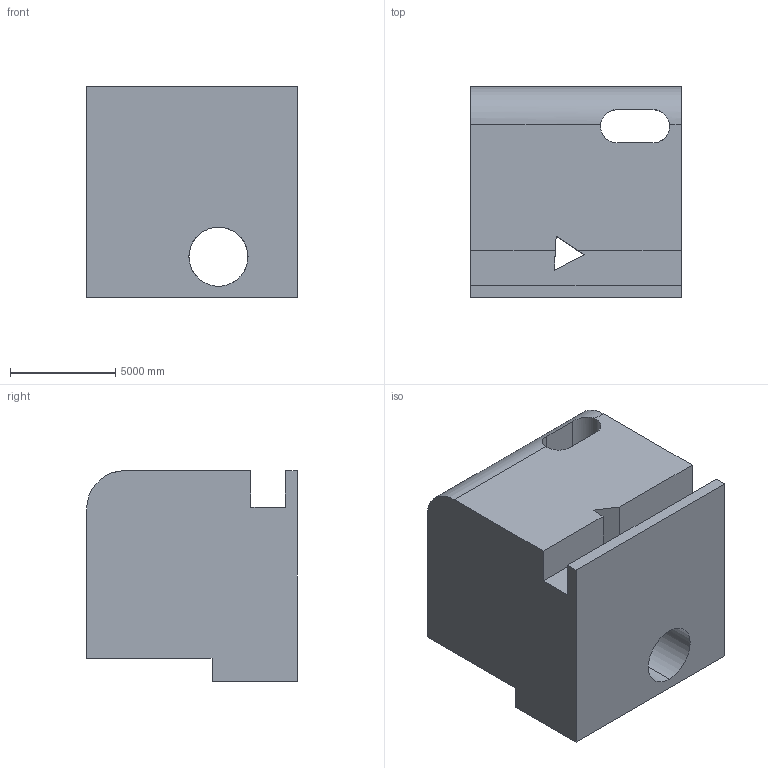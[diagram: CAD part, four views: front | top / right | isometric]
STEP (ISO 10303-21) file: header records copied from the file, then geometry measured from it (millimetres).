
FILE_DESCRIPTION (( 'STEP AP203' ), '1' );
FILE_NAME ('688.STEP', '2022-07-29T12:32:13', ( 'user' ), ( '' ), 'SwSTEP 2.0', 'SolidWorks 2021', '' );
FILE_SCHEMA (( 'CONFIG_CONTROL_DESIGN' ));
Length unit declared in the file: centimetre
Products named in the file (1): 688
Bounding box: 10000 x 10000 x 10000 mm (x, y, z)
Volume: 751010734316.2 mm3; surface area: 733296535.9 mm2
Topology: 1 solids, 1 shells, 30 faces, 99 edges, 66 vertices
Faces by surface type: plane 20, cylinder 10
Entity records: 1500 total; most frequent: CARTESIAN_POINT 554, ORIENTED_EDGE 198, DIRECTION 165, EDGE_CURVE 99, VECTOR 69, LINE 69, VERTEX_POINT 66, AXIS2_PLACEMENT_3D 48
